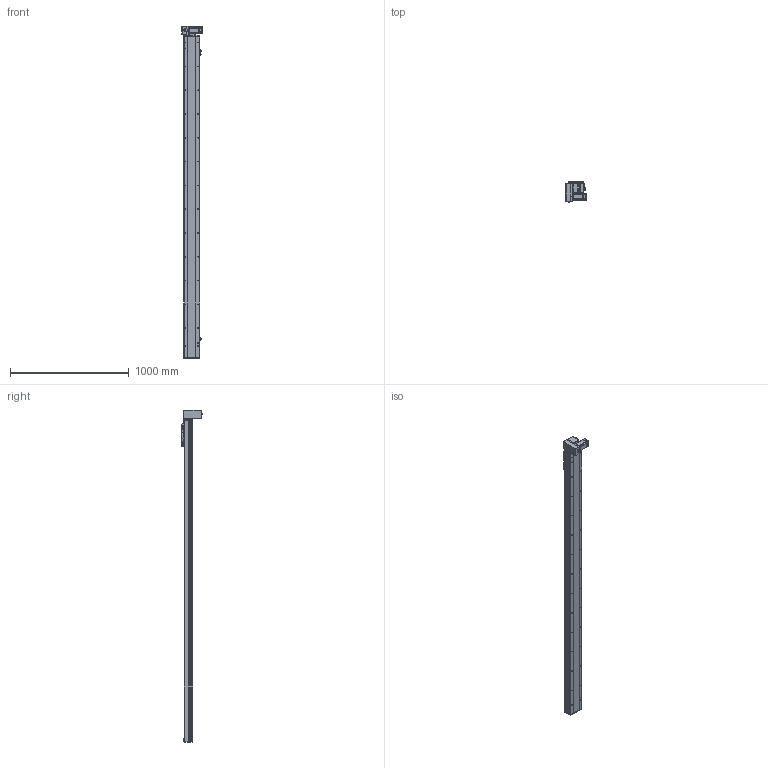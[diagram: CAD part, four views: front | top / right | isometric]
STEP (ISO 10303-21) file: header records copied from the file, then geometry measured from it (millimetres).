
FILE_DESCRIPTION (( 'STEP AP214' ), '1' );
FILE_NAME ('TPE14-L40-2400-LD-T40-C4.STEP', '2023-04-12T11:28:35', ( '' ), ( '' ), 'SwSTEP 2.0', 'SolidWorks 2020', '' );
FILE_SCHEMA (( 'AUTOMOTIVE_DESIGN' ));
Length unit declared in the file: millimetre
Products named in the file (10): 葩璃 TPE14-L-007 々湍釱MZ-169x88^TPE14-L40-LD-T40-C4_YCB14; 葩璃 TPE14 賑雄殤^TPE14-L40-LD-T40-C4; hexagon head bolts-full thread gb_GB_FASTENER_BOLT_STBAB A M5X16-N; TPE14-L40-2400-LD-T40-C4; 葩璃 TPE14-L-002 耜裔ZTMZ-135-04^TPE14-L40-LD-T40-C4; 葩璃 詩湍75^TPE14-L40-LD-T40-C4; 葩璃 TPE14-L-001 菁釱MZ-135-01^TPE14-L40-LD-T40-C4; 葩璃 pm-t65-672^TPE14-L40-LD-T40-C4; 葩璃 TPT14-L-009 萇儂啣^TPE14-L40-LD-T40-C4_400W; 葩璃 侂狟400W^TPE14-L40-LD-T40-C4
Assembly tree (12 placements, depth 2):
  TPE14-L40-2400-LD-T40-C4
    葩璃 TPE14-L-001 菁釱MZ-135-01^TPE14-L40-LD-T40-C4
    葩璃 TPE14-L-002 耜裔ZTMZ-135-04^TPE14-L40-LD-T40-C4  x2
    葩璃 詩湍75^TPE14-L40-LD-T40-C4
    葩璃 TPE14-L-007 々湍釱MZ-169x88^TPE14-L40-LD-T40-C4_YCB14
    葩璃 TPT14-L-009 萇儂啣^TPE14-L40-LD-T40-C4_400W
    葩璃 TPE14 賑雄殤^TPE14-L40-LD-T40-C4
    葩璃 pm-t65-672^TPE14-L40-LD-T40-C4  x3
    葩璃 侂狟400W^TPE14-L40-LD-T40-C4
    hexagon head bolts-full thread gb_GB_FASTENER_BOLT_STBAB A M5X16-N
Bounding box: 172.5 x 171.45 x 2790.5 mm (x, y, z)
Volume: 13818138.6 mm3; surface area: 2595414.7 mm2
Topology: 23 solids, 23 shells, 1468 faces, 3807 edges, 2400 vertices
Faces by surface type: plane 823, cylinder 449, cone 162, bspline 34
Entity records: 39359 total; most frequent: CARTESIAN_POINT 7592, DIRECTION 6288, ORIENTED_EDGE 6050, EDGE_CURVE 3025, AXIS2_PLACEMENT_3D 2150, VECTOR 1988, LINE 1988, VERTEX_POINT 1948
